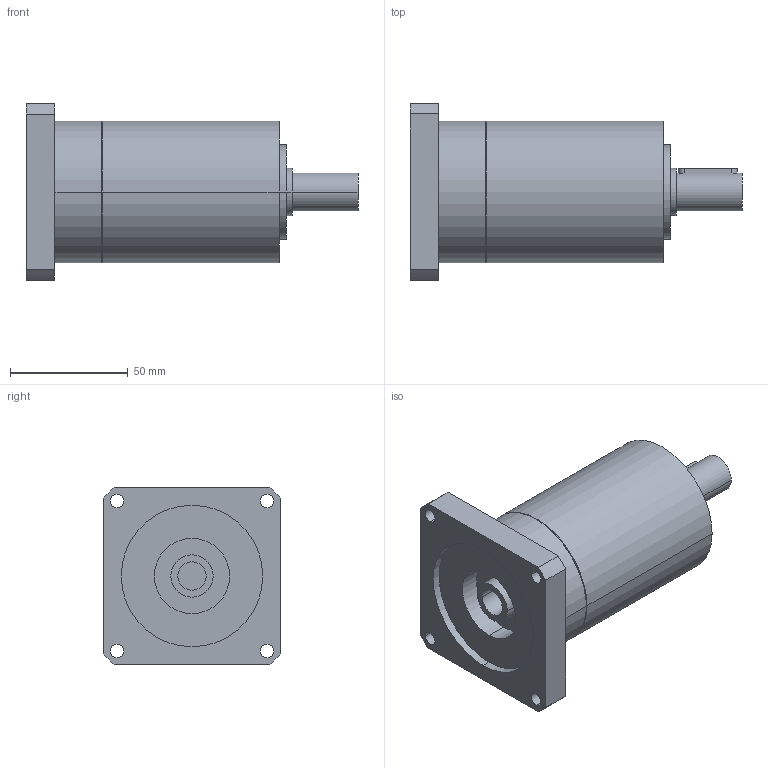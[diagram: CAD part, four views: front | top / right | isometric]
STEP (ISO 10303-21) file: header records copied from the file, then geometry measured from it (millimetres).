
FILE_DESCRIPTION(('CoCreate Modeling STEP Export'),'2;1');
FILE_NAME('GPR75_ig-9-12-16-20-24-30-36_16_B14_12_P15.stp','2014-08-25T16:02:42',(''),(''),'CoCreate Modeling STEP processor for AP214 (Solid Model)','CoCreate Modeling 16.00C 25-Feb-2009 (C) Parametric Technology GmbH','');
FILE_SCHEMA(('AUTOMOTIVE_DESIGN { 1 0 10303 214 1 1 1 1 }'));
Length unit declared in the file: millimetre
Products named in the file (2): GPR75_ig-9-12-16-20-24-30-36_16_B14_12_P15
Assembly tree (1 placements, depth 2):
  GPR75_ig-9-12-16-20-24-30-36_16_B14_12_P15
    GPR75_ig-9-12-16-20-24-30-36_16_B14_12_P15
Bounding box: 140.9 x 75 x 75 mm (x, y, z)
Volume: 326668 mm3; surface area: 39283.1 mm2
Topology: 1 solids, 1 shells, 70 faces, 188 edges, 132 vertices
Faces by surface type: cylinder 42, plane 22, cone 6
Entity records: 1939 total; most frequent: ORIENTED_EDGE 372, CARTESIAN_POINT 360, DIRECTION 262, EDGE_CURVE 186, VERTEX_POINT 132, AXIS2_PLACEMENT_3D 98, EDGE_LOOP 92, FACE_OUTER_BOUND 70
